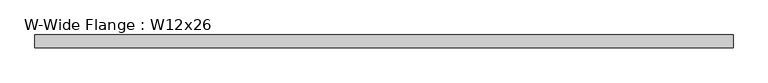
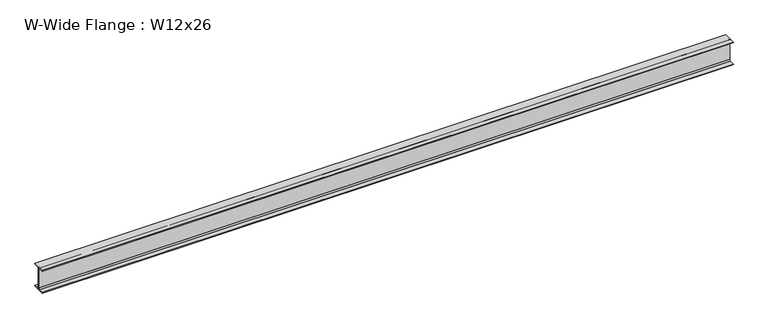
"""IFC4 building model written with IfcOpenShell, lengths in millimetres: beam geometry, W-Wide Flange : W12x26."""

from ifc_helpers import new_model, si_unit, point, frame, frame_2d, origin, place, context, project, spatial, polyline, circle_curve, trimmed, segment, composite_curve, outline, extrude, source, transform, mapped, element, save


def w_wide_flange_w12x26_59120017(model_context):
    return source(origin(), model_context, "Body", "SweptSolid", [
        extrude(outline(composite_curve([segment(polyline([(82.423, -145.288), (82.423, -154.94), (-82.423, -154.94), (-82.423, -145.288), (-20.2565, -145.288)]), True, "CONTINUOUS"), segment(trimmed(circle_curve(frame_2d((-20.2565, -127.9525)), 17.3355), [point((-20.2565, -145.288))], [point((-2.921, -127.9525))], True, "CARTESIAN"), True, "CONTINUOUS"), segment(polyline([(-2.921, -127.9525), (-2.921, 127.9525)]), True, "CONTINUOUS"), segment(trimmed(circle_curve(frame_2d((-20.2565, 127.9525)), 17.3355), [point((-2.921, 127.9525))], [point((-20.2565, 145.288))], True, "CARTESIAN"), True, "CONTINUOUS"), segment(polyline([(-20.2565, 145.288), (-82.423, 145.288), (-82.423, 154.94), (82.423, 154.94), (82.423, 145.288), (20.2565, 145.288)]), True, "CONTINUOUS"), segment(trimmed(circle_curve(frame_2d((20.2565, 127.9525)), 17.3355), [point((20.2565, 145.288))], [point((2.921, 127.9525))], True, "CARTESIAN"), True, "CONTINUOUS"), segment(polyline([(2.921, 127.9525), (2.921, -127.9525)]), True, "CONTINUOUS"), segment(trimmed(circle_curve(frame_2d((20.2565, -127.9525)), 17.3355), [point((2.921, -127.9525))], [point((20.2565, -145.288))], True, "CARTESIAN"), True, "CONTINUOUS"), segment(polyline([(20.2565, -145.288), (82.423, -145.288)]), True, "CONTINUOUS")], self_intersect=False)), frame((-4485.513, 0.0, 0.0), z_axis=(1.0, 0.0, 0.0), x_axis=(0.0, 1.0, 0.0)), (0.0, 0.0, 1.0), 8971.026),
    ])


if __name__ == "__main__":
    model = new_model("IFC4")
    model_context = context("Model", 3, world=origin())
    ifc_project = project(units=[si_unit("LENGTHUNIT", "METRE", prefix="MILLI")], contexts=[model_context])
    site = spatial("IfcSite", under=ifc_project)
    building = spatial("IfcBuilding", under=site)
    placement = place(None, origin())
    w_wide_flange_w12x26_shape = w_wide_flange_w12x26_59120017(model_context)
    element("IfcBeam", 1, ObjectType="W-Wide Flange : W12x26", at=placement, inside=building, context=model_context, shape_type="MappedRepresentation", body=[
        mapped(w_wide_flange_w12x26_shape, transform((0.0, 0.0, 0.0), x_axis=(1.0, 0.0, 0.0), y_axis=(0.0, 1.0, 0.0), z_axis=(0.0, 0.0, 1.0))),
    ])
    save(model, "model.ifc")
